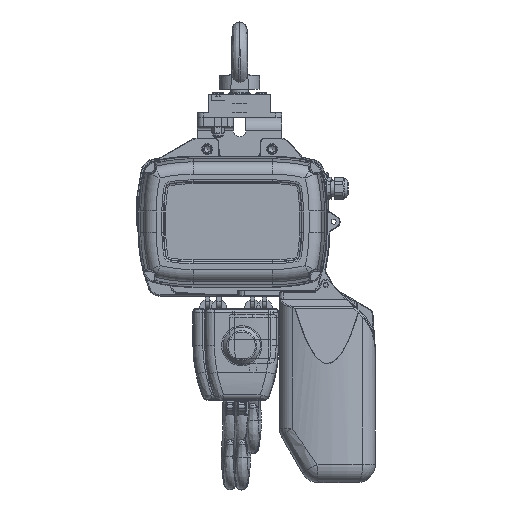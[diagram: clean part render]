
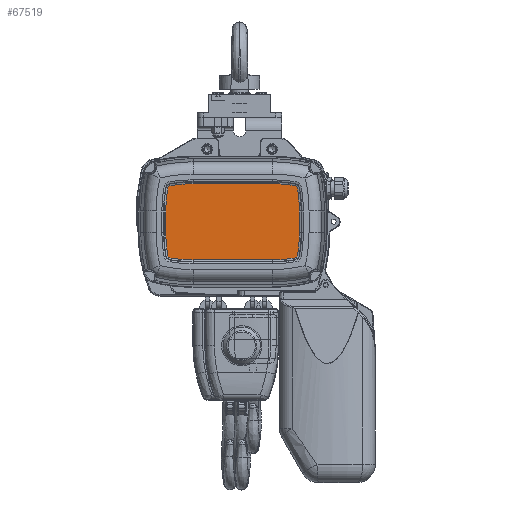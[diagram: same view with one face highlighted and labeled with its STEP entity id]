
A CAD part, front view. The second image highlights one B-rep face of the part: STEP entity #67519.
In plain terms, the highlighted planar face has unit normal (0, -1, 0).
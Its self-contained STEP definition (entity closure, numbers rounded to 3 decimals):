
#4121=B_SPLINE_CURVE_WITH_KNOTS('',3,(#180488,#180489,#180490,#180491,#180492,
#180493),.UNSPECIFIED.,.F.,.F.,(4,1,1,4),(0.,0.429,0.714,
1.),.UNSPECIFIED.);
#4122=B_SPLINE_CURVE_WITH_KNOTS('',3,(#180501,#180502,#180503,#180504,#180505,
#180506),.UNSPECIFIED.,.F.,.F.,(4,1,1,4),(0.,0.429,0.714,
1.),.UNSPECIFIED.);
#4123=B_SPLINE_CURVE_WITH_KNOTS('',3,(#180514,#180515,#180516,#180517,#180518,
#180519),.UNSPECIFIED.,.F.,.F.,(4,1,1,4),(0.,0.429,0.714,
1.),.UNSPECIFIED.);
#4124=B_SPLINE_CURVE_WITH_KNOTS('',3,(#180527,#180528,#180529,#180530,#180531,
#180532),.UNSPECIFIED.,.F.,.F.,(4,1,1,4),(0.,0.429,0.714,
1.),.UNSPECIFIED.);
#5672=PLANE('',#74098);
#9192=FACE_OUTER_BOUND('',#13319,.T.);
#13319=EDGE_LOOP('',(#56153,#56154,#56155,#56156,#56157,#56158,#56159,#56160,
#56161,#56162,#56163,#56164,#56165,#56166,#56167,#56168));
#17209=LINE('',#180497,#20822);
#17210=LINE('',#180510,#20823);
#17211=LINE('',#180523,#20824);
#17212=LINE('',#180535,#20825);
#20822=VECTOR('',#89902,128.);
#20823=VECTOR('',#89907,35.);
#20824=VECTOR('',#89912,128.);
#20825=VECTOR('',#89917,35.);
#24045=CIRCLE('',#74099,218.981);
#24046=CIRCLE('',#74100,218.981);
#24047=CIRCLE('',#74101,218.981);
#24048=CIRCLE('',#74102,218.981);
#24049=CIRCLE('',#74103,218.981);
#24050=CIRCLE('',#74104,218.981);
#24051=CIRCLE('',#74105,218.981);
#24052=CIRCLE('',#74106,218.981);
#29535=VERTEX_POINT('',#180484);
#29536=VERTEX_POINT('',#180485);
#29537=VERTEX_POINT('',#180487);
#29538=VERTEX_POINT('',#180494);
#29539=VERTEX_POINT('',#180496);
#29540=VERTEX_POINT('',#180498);
#29541=VERTEX_POINT('',#180500);
#29542=VERTEX_POINT('',#180507);
#29543=VERTEX_POINT('',#180509);
#29544=VERTEX_POINT('',#180511);
#29545=VERTEX_POINT('',#180513);
#29546=VERTEX_POINT('',#180520);
#29547=VERTEX_POINT('',#180522);
#29548=VERTEX_POINT('',#180524);
#29549=VERTEX_POINT('',#180526);
#29550=VERTEX_POINT('',#180533);
#38560=EDGE_CURVE('',#29535,#29536,#24045,.T.);
#38561=EDGE_CURVE('',#29537,#29535,#4121,.T.);
#38562=EDGE_CURVE('',#29538,#29537,#24046,.T.);
#38563=EDGE_CURVE('',#29539,#29538,#17209,.T.);
#38564=EDGE_CURVE('',#29539,#29540,#24047,.T.);
#38565=EDGE_CURVE('',#29540,#29541,#4122,.T.);
#38566=EDGE_CURVE('',#29541,#29542,#24048,.T.);
#38567=EDGE_CURVE('',#29542,#29543,#17210,.T.);
#38568=EDGE_CURVE('',#29544,#29543,#24049,.T.);
#38569=EDGE_CURVE('',#29545,#29544,#4123,.T.);
#38570=EDGE_CURVE('',#29546,#29545,#24050,.T.);
#38571=EDGE_CURVE('',#29546,#29547,#17211,.T.);
#38572=EDGE_CURVE('',#29547,#29548,#24051,.T.);
#38573=EDGE_CURVE('',#29548,#29549,#4124,.T.);
#38574=EDGE_CURVE('',#29549,#29550,#24052,.T.);
#38575=EDGE_CURVE('',#29550,#29536,#17212,.T.);
#56153=ORIENTED_EDGE('',*,*,#38560,.F.);
#56154=ORIENTED_EDGE('',*,*,#38561,.F.);
#56155=ORIENTED_EDGE('',*,*,#38562,.F.);
#56156=ORIENTED_EDGE('',*,*,#38563,.F.);
#56157=ORIENTED_EDGE('',*,*,#38564,.T.);
#56158=ORIENTED_EDGE('',*,*,#38565,.T.);
#56159=ORIENTED_EDGE('',*,*,#38566,.T.);
#56160=ORIENTED_EDGE('',*,*,#38567,.T.);
#56161=ORIENTED_EDGE('',*,*,#38568,.F.);
#56162=ORIENTED_EDGE('',*,*,#38569,.F.);
#56163=ORIENTED_EDGE('',*,*,#38570,.F.);
#56164=ORIENTED_EDGE('',*,*,#38571,.T.);
#56165=ORIENTED_EDGE('',*,*,#38572,.T.);
#56166=ORIENTED_EDGE('',*,*,#38573,.T.);
#56167=ORIENTED_EDGE('',*,*,#38574,.T.);
#56168=ORIENTED_EDGE('',*,*,#38575,.T.);
#67519=ADVANCED_FACE('',(#9192),#5672,.T.);
#74098=AXIS2_PLACEMENT_3D('',#180483,#89896,#89897);
#74099=AXIS2_PLACEMENT_3D('',#180486,#89898,#89899);
#74100=AXIS2_PLACEMENT_3D('',#180495,#89900,#89901);
#74101=AXIS2_PLACEMENT_3D('',#180499,#89903,#89904);
#74102=AXIS2_PLACEMENT_3D('',#180508,#89905,#89906);
#74103=AXIS2_PLACEMENT_3D('',#180512,#89908,#89909);
#74104=AXIS2_PLACEMENT_3D('',#180521,#89910,#89911);
#74105=AXIS2_PLACEMENT_3D('',#180525,#89913,#89914);
#74106=AXIS2_PLACEMENT_3D('',#180534,#89915,#89916);
#89896=DIRECTION('center_axis',(0.,-1.,0.));
#89897=DIRECTION('ref_axis',(-1.,0.,0.));
#89898=DIRECTION('center_axis',(0.,1.,0.));
#89899=DIRECTION('ref_axis',(-0.996,0.,-0.084));
#89900=DIRECTION('center_axis',(0.,1.,0.));
#89901=DIRECTION('ref_axis',(-0.084,0.,-0.996));
#89902=DIRECTION('',(-1.,0.,0.));
#89903=DIRECTION('center_axis',(0.,-1.,0.));
#89904=DIRECTION('ref_axis',(0.084,0.,-0.996));
#89905=DIRECTION('center_axis',(0.,-1.,0.));
#89906=DIRECTION('ref_axis',(0.996,0.,-0.084));
#89907=DIRECTION('',(0.,0.,1.));
#89908=DIRECTION('center_axis',(0.,1.,0.));
#89909=DIRECTION('ref_axis',(0.996,0.,0.084));
#89910=DIRECTION('center_axis',(0.,1.,0.));
#89911=DIRECTION('ref_axis',(0.084,0.,0.996));
#89912=DIRECTION('',(-1.,0.,0.));
#89913=DIRECTION('center_axis',(0.,-1.,0.));
#89914=DIRECTION('ref_axis',(-0.084,0.,0.996));
#89915=DIRECTION('center_axis',(0.,-1.,0.));
#89916=DIRECTION('ref_axis',(-0.996,0.,0.084));
#89917=DIRECTION('',(0.,0.,-1.));
#180483=CARTESIAN_POINT('Origin',(34.056,-282.,-143.324));
#180484=CARTESIAN_POINT('',(-125.528,-282.,-230.249));
#180485=CARTESIAN_POINT('',(-128.731,-282.,-192.929));
#180486=CARTESIAN_POINT('Origin',(90.25,-282.,-192.929));
#180487=CARTESIAN_POINT('',(-122.07,-282.,-233.707));
#180488=CARTESIAN_POINT('Ctrl Pts',(-122.07,-282.,
-233.707));
#180489=CARTESIAN_POINT('Ctrl Pts',(-122.805,-282.,
-233.58));
#180490=CARTESIAN_POINT('Ctrl Pts',(-124.,-282.,
-233.091));
#180491=CARTESIAN_POINT('Ctrl Pts',(-125.133,-282.,
-231.706));
#180492=CARTESIAN_POINT('Ctrl Pts',(-125.443,-282.,
-230.739));
#180493=CARTESIAN_POINT('Ctrl Pts',(-125.528,-282.,
-230.249));
#180494=CARTESIAN_POINT('',(-84.75,-282.,-236.911));
#180495=CARTESIAN_POINT('Origin',(-84.75,-282.,-17.929));
#180496=CARTESIAN_POINT('',(43.25,-282.,-236.911));
#180497=CARTESIAN_POINT('',(-80.153,-282.,-236.911));
#180498=CARTESIAN_POINT('',(80.57,-282.,-233.707));
#180499=CARTESIAN_POINT('Origin',(43.25,-282.,-17.929));
#180500=CARTESIAN_POINT('',(84.028,-282.,-230.249));
#180501=CARTESIAN_POINT('Ctrl Pts',(80.57,-282.,-233.707));
#180502=CARTESIAN_POINT('Ctrl Pts',(81.304,-282.,
-233.58));
#180503=CARTESIAN_POINT('Ctrl Pts',(82.5,-282.,
-233.091));
#180504=CARTESIAN_POINT('Ctrl Pts',(83.633,-282.,
-231.706));
#180505=CARTESIAN_POINT('Ctrl Pts',(83.943,-282.,
-230.739));
#180506=CARTESIAN_POINT('Ctrl Pts',(84.028,-282.,-230.249));
#180507=CARTESIAN_POINT('',(87.231,-282.,-192.929));
#180508=CARTESIAN_POINT('Origin',(-131.75,-282.,-192.929));
#180509=CARTESIAN_POINT('',(87.231,-282.,-157.929));
#180510=CARTESIAN_POINT('',(87.231,-282.,-191.482));
#180511=CARTESIAN_POINT('',(84.028,-282.,-120.609));
#180512=CARTESIAN_POINT('Origin',(-131.75,-282.,-157.929));
#180513=CARTESIAN_POINT('',(80.57,-282.,-117.152));
#180514=CARTESIAN_POINT('Ctrl Pts',(80.57,-282.,-117.152));
#180515=CARTESIAN_POINT('Ctrl Pts',(81.304,-282.,
-117.279));
#180516=CARTESIAN_POINT('Ctrl Pts',(82.5,-282.,
-117.768));
#180517=CARTESIAN_POINT('Ctrl Pts',(83.633,-282.,
-119.152));
#180518=CARTESIAN_POINT('Ctrl Pts',(83.943,-282.,
-120.12));
#180519=CARTESIAN_POINT('Ctrl Pts',(84.028,-282.,
-120.609));
#180520=CARTESIAN_POINT('',(43.25,-282.,-113.948));
#180521=CARTESIAN_POINT('Origin',(43.25,-282.,-332.929));
#180522=CARTESIAN_POINT('',(-84.75,-282.,-113.948));
#180523=CARTESIAN_POINT('',(-80.153,-282.,-113.948));
#180524=CARTESIAN_POINT('',(-122.07,-282.,-117.152));
#180525=CARTESIAN_POINT('Origin',(-84.75,-282.,-332.929));
#180526=CARTESIAN_POINT('',(-125.528,-282.,-120.609));
#180527=CARTESIAN_POINT('Ctrl Pts',(-122.07,-282.,
-117.152));
#180528=CARTESIAN_POINT('Ctrl Pts',(-122.805,-282.,
-117.279));
#180529=CARTESIAN_POINT('Ctrl Pts',(-124.,-282.,
-117.768));
#180530=CARTESIAN_POINT('Ctrl Pts',(-125.133,-282.,
-119.152));
#180531=CARTESIAN_POINT('Ctrl Pts',(-125.443,-282.,
-120.12));
#180532=CARTESIAN_POINT('Ctrl Pts',(-125.528,-282.,
-120.609));
#180533=CARTESIAN_POINT('',(-128.731,-282.,-157.929));
#180534=CARTESIAN_POINT('Origin',(90.25,-282.,-157.929));
#180535=CARTESIAN_POINT('',(-128.731,-282.,-159.377));
